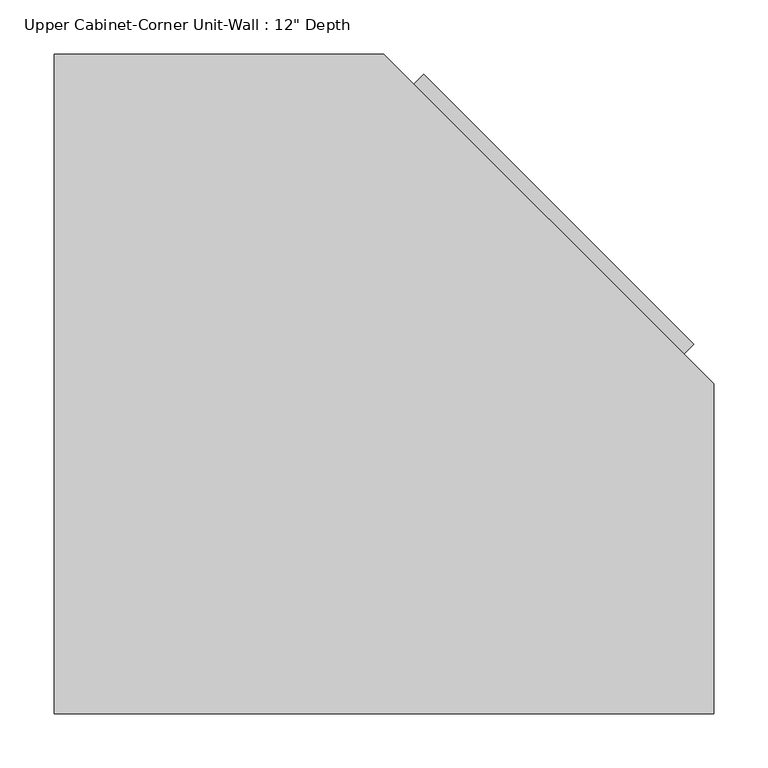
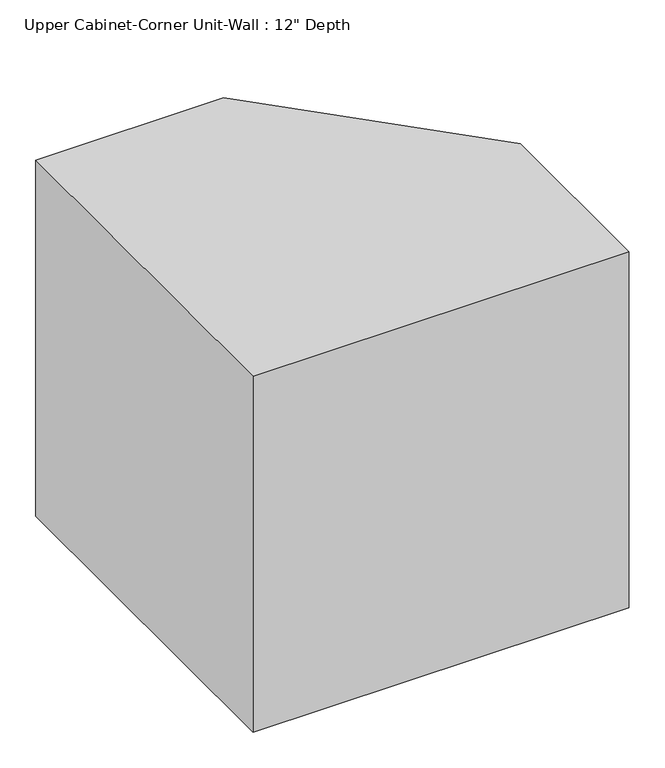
"""IFC4 building model written with IfcOpenShell, lengths in millimetres: furniture geometry."""

from ifc_helpers import new_model, si_unit, frame, origin, place, context, project, spatial, polyline, outline, extrude, faceted_brep, source, transform, mapped, element, save


def furniture_a0a301ae(model_context):
    return source(origin(), model_context, "Body", "SolidModel", [
        extrude(outline(polyline([(295.0625715, 673.4191036), (544.4402664, 424.0414087), (526.4797541, 406.0808964), (277.1020592, 655.4585913), (295.0625715, 673.4191036)])), frame((0.0, 0.0, 1581.15), z_axis=(0.0, 0.0, 1.0), x_axis=(1.0, 0.0, 0.0)), (0.0, 0.0, 1.0), 495.3),
        extrude(outline(polyline([(-27.3788372, 673.1), (250.4803944, 673.1), (544.1211628, 379.4592316), (544.1211628, 101.6), (-27.3788372, 101.6), (-27.3788372, 673.1)])), frame((0.0, 0.0, 1524.0), z_axis=(0.0, 0.0, 1.0), x_axis=(1.0, 0.0, 0.0)), (0.0, 0.0, 1.0), 25.4),
        faceted_brep([(-46.4288372, 692.15, 1524.0), (258.3711628, 692.15, 1524.0), (563.1711628, 387.35, 1524.0), (563.1711628, 82.55, 1524.0), (-46.4288372, 82.55, 1524.0), (250.4803944, 673.1, 1524.0), (-27.3788372, 673.1, 1524.0), (-27.3788372, 101.6, 1524.0), (544.1211628, 101.6, 1524.0), (544.1211628, 379.4592316, 1524.0), (-46.4288372, 692.15, 2133.6), (-46.4288372, 82.55, 2133.6), (563.1711628, 82.55, 2133.6), (563.1711628, 387.35, 2133.6), (258.3711628, 692.15, 2133.6), (250.4803944, 673.1, 2108.2), (-27.3788372, 673.1, 2108.2), (-27.3788372, 101.6, 2108.2), (544.1211628, 101.6, 2108.2), (544.1211628, 379.4592316, 2108.2), (535.4600102, 415.0611525, 2076.45), (286.0823153, 664.4388475, 2076.45), (286.0823153, 664.4388475, 1581.15), (535.4600102, 415.0611525, 1581.15), (272.6119312, 650.9684633, 2076.45), (521.9896261, 401.5907684, 2076.45), (521.9896261, 401.5907684, 1581.15), (272.6119312, 650.9684633, 1581.15)], [[[0, 1, 2, 3, 4], [5, 6, 7, 8, 9]], [[10, 11, 12, 13, 14]], [[1, 0, 10, 14]], [[6, 5, 15, 16]], [[7, 6, 16, 17]], [[8, 7, 17, 18]], [[9, 8, 18, 19]], [[3, 2, 13, 12]], [[4, 3, 12, 11]], [[0, 4, 11, 10]], [[16, 15, 19, 18, 17]], [[2, 1, 14, 13], [20, 21, 22, 23]], [[5, 9, 19, 15], [24, 25, 26, 27]], [[20, 25, 24, 21]], [[22, 27, 26, 23]], [[21, 24, 27, 22]], [[25, 20, 23, 26]]]),
    ])


if __name__ == "__main__":
    model = new_model("IFC4")
    model_context = context("Model", 3, world=origin())
    ifc_project = project(units=[si_unit("LENGTHUNIT", "METRE", prefix="MILLI")], contexts=[model_context])
    site = spatial("IfcSite", under=ifc_project)
    building = spatial("IfcBuilding", under=site)
    placement = place(None, origin())
    furniture_shape = furniture_a0a301ae(model_context)
    element("IfcFurniture", 1, ObjectType="Upper Cabinet-Corner Unit-Wall : 12\" Depth", at=placement, inside=building, context=model_context, shape_type="MappedRepresentation", body=[
        mapped(furniture_shape, transform((0.0, 0.0, 0.0), x_axis=(1.0, 0.0, 0.0), y_axis=(0.0, 1.0, 0.0), z_axis=(0.0, 0.0, 1.0))),
    ])
    save(model, "model.ifc")
